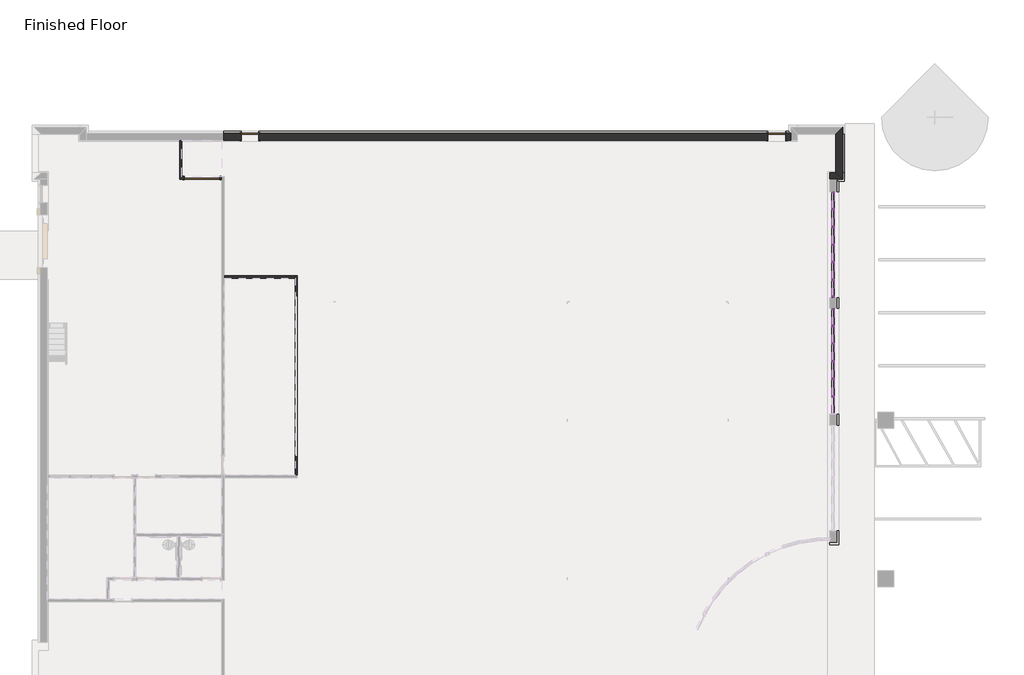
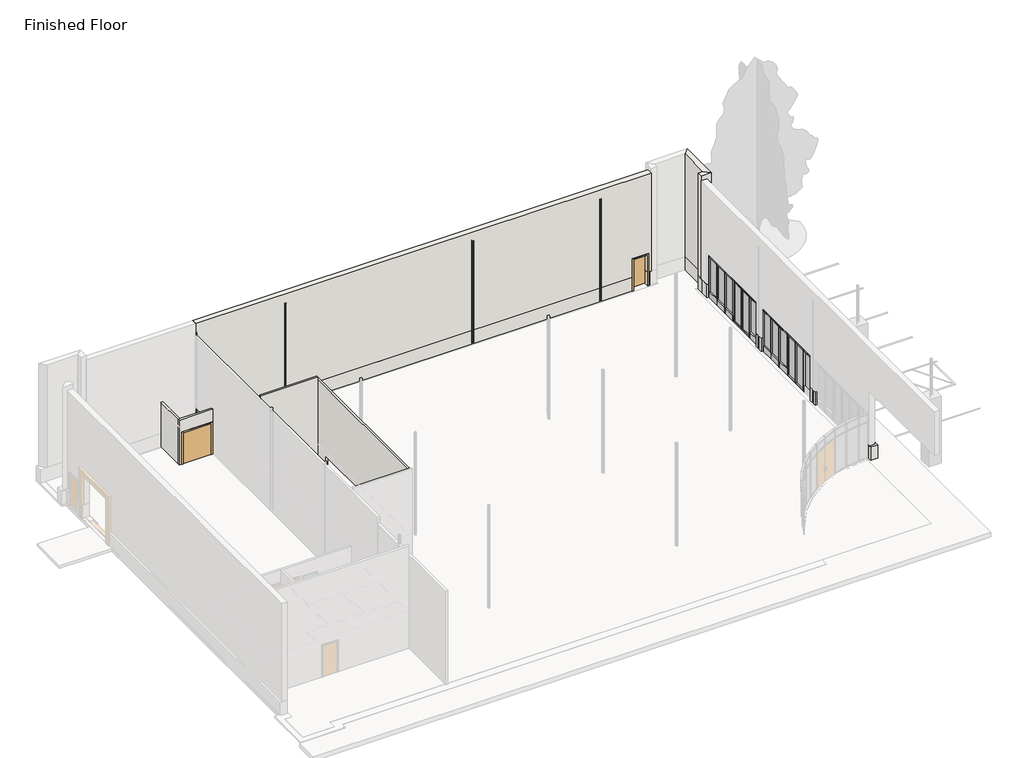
# One storey, part 5 of 6: 61 members, 24 plates, 11 walls, 3 doors.
"""IFC4 building model written with IfcOpenShell, lengths in millimetres."""

from ifc_helpers import new_model, si_unit, frame, origin, origin_with_axes, place, context, project, spatial, polyline, outline, extrude, faceted_brep, transform, mapped, element, save
from components import door_ca526e64, door_632be17d, door_cc5399a4, member_d2e7e466, member_7db1855a, member_069002c8, member_a75f139a, member_8a16213d, member_a608d019, member_c17f1be2, member_ad567e07, rectangular_mullion_tall_mullion_dc5872ae, rectangular_mullion_tall_mullion_643de06f, system_panel_glazed_a343adf7, system_panel_glazed_9a2244e3, system_panel_glazed_6d8c8de5, system_panel_glazed_f449fc8c, system_panel_glazed_de0f3d3d

model = new_model("IFC4")

# Units and contexts
model_context = context("Model", 3, world=origin())
ifc_project = project(units=[si_unit("LENGTHUNIT", "METRE", prefix="MILLI")], contexts=[model_context])

# Site, building, storey
site = spatial("IfcSite", under=ifc_project)
building = spatial("IfcBuilding", under=site)
storey = spatial("IfcBuildingStorey", under=building, Name="Finished Floor", Elevation=0.0)

# Doors
placement = place(None, origin())
door_shape = door_ca526e64(model_context)
element("IfcDoor", 1, ObjectType="Double-Flush-Dbl Acting : 72\" x 84\"", at=placement, inside=storey, context=model_context, shape_type="MappedRepresentation", body=[
    mapped(door_shape, transform((-14044.6165221, 12023.3561943, 0.0), x_axis=(-1.0, 0.0, 0.0), y_axis=(0.0, -1.0, 0.0), z_axis=(0.0, 0.0, 1.0))),
])
door_2_shape = door_632be17d(model_context)
element("IfcDoor", 2, ObjectType="Single-Flush : 36\" x 84\"", at=placement, inside=storey, context=model_context, shape_type="MappedRepresentation", body=[
    mapped(door_2_shape, transform((15731.3272279, 14169.6561943, 0.0), x_axis=(1.0, 0.0, 0.0), y_axis=(0.0, 1.0, 0.0), z_axis=(0.0, 0.0, 1.0))),
])
door_3_shape = door_cc5399a4(model_context)
element("IfcDoor", 3, ObjectType="Single-Flush : 36\" x 84\"", at=placement, inside=storey, context=model_context, shape_type="MappedRepresentation", body=[
    mapped(door_3_shape, transform((-11548.2727721, 14169.6561943, 0.0), x_axis=(-1.0, 0.0, 0.0), y_axis=(0.0, -1.0, 0.0), z_axis=(0.0, 0.0, 1.0))),
])

# Members
member_shape = member_d2e7e466(model_context)
element("IfcMember", 4, ObjectType="Rectangular Mullion : 2.5\" x 5\" rectangular", at=placement, inside=storey, context=model_context, shape_type="MappedRepresentation", body=[
    mapped(member_shape, transform((18653.9147279, 2501.5311943, 3048.0), x_axis=(0.0, 0.0, 1.0), y_axis=(1.0, 0.0, 0.0), z_axis=(0.0, 1.0, 0.0))),
])
element("IfcMember", 5, ObjectType="Rectangular Mullion : 2.5\" x 5\" rectangular", at=placement, inside=storey, context=model_context, shape_type="MappedRepresentation", body=[
    mapped(member_shape, transform((18653.9147279, 3415.9311943, 3048.0), x_axis=(0.0, 0.0, 1.0), y_axis=(1.0, 0.0, 0.0), z_axis=(0.0, 1.0, 0.0))),
])
element("IfcMember", 6, ObjectType="Rectangular Mullion : 2.5\" x 5\" rectangular", at=placement, inside=storey, context=model_context, shape_type="MappedRepresentation", body=[
    mapped(member_shape, transform((18653.9147279, 4330.3311943, 3048.0), x_axis=(0.0, 0.0, 1.0), y_axis=(1.0, 0.0, 0.0), z_axis=(0.0, 1.0, 0.0))),
])
element("IfcMember", 7, ObjectType="Rectangular Mullion : 2.5\" x 5\" rectangular", at=placement, inside=storey, context=model_context, shape_type="MappedRepresentation", body=[
    mapped(member_shape, transform((18653.9147279, 8546.7311943, 3048.0), x_axis=(0.0, 0.0, 1.0), y_axis=(1.0, 0.0, 0.0), z_axis=(0.0, 1.0, 0.0))),
])
element("IfcMember", 8, ObjectType="Rectangular Mullion : 2.5\" x 5\" rectangular", at=placement, inside=storey, context=model_context, shape_type="MappedRepresentation", body=[
    mapped(member_shape, transform((18653.9147279, 9461.1311943, 3048.0), x_axis=(0.0, 0.0, 1.0), y_axis=(1.0, 0.0, 0.0), z_axis=(0.0, 1.0, 0.0))),
])
element("IfcMember", 9, ObjectType="Rectangular Mullion : 2.5\" x 5\" rectangular", at=placement, inside=storey, context=model_context, shape_type="MappedRepresentation", body=[
    mapped(member_shape, transform((18653.9147279, 10375.5311943, 3048.0), x_axis=(0.0, 0.0, 1.0), y_axis=(1.0, 0.0, 0.0), z_axis=(0.0, 1.0, 0.0))),
])
member_2_shape = member_7db1855a(model_context)
element("IfcMember", 10, ObjectType="Rectangular Mullion : 2.5\" x 5\" rectangular", at=placement, inside=storey, context=model_context, shape_type="MappedRepresentation", body=[
    mapped(member_2_shape, transform((18653.9147279, 3415.9311943, 2813.05), x_axis=(0.0, 0.0, 1.0), y_axis=(1.0, 0.0, 0.0), z_axis=(0.0, 1.0, 0.0))),
])
element("IfcMember", 11, ObjectType="Rectangular Mullion : 2.5\" x 5\" rectangular", at=placement, inside=storey, context=model_context, shape_type="MappedRepresentation", body=[
    mapped(member_2_shape, transform((18653.9147279, 4330.3311943, 2813.05), x_axis=(0.0, 0.0, 1.0), y_axis=(1.0, 0.0, 0.0), z_axis=(0.0, 1.0, 0.0))),
])
element("IfcMember", 12, ObjectType="Rectangular Mullion : 2.5\" x 5\" rectangular", at=placement, inside=storey, context=model_context, shape_type="MappedRepresentation", body=[
    mapped(member_2_shape, transform((18653.9147279, 9461.1311943, 2813.05), x_axis=(0.0, 0.0, 1.0), y_axis=(1.0, 0.0, 0.0), z_axis=(0.0, 1.0, 0.0))),
])
element("IfcMember", 13, ObjectType="Rectangular Mullion : 2.5\" x 5\" rectangular", at=placement, inside=storey, context=model_context, shape_type="MappedRepresentation", body=[
    mapped(member_2_shape, transform((18653.9147279, 10375.5311943, 2813.05), x_axis=(0.0, 0.0, 1.0), y_axis=(1.0, 0.0, 0.0), z_axis=(0.0, 1.0, 0.0))),
])
element("IfcMember", 14, ObjectType="Rectangular Mullion : 2.5\" x 5\" rectangular", at=placement, inside=storey, context=model_context, shape_type="MappedRepresentation", body=[
    mapped(member_shape, transform((18653.9147279, 1587.1311943, 3048.0), x_axis=(0.0, 0.0, 1.0), y_axis=(1.0, 0.0, 0.0), z_axis=(0.0, 1.0, 0.0))),
])
element("IfcMember", 15, ObjectType="Rectangular Mullion : 2.5\" x 5\" rectangular", at=placement, inside=storey, context=model_context, shape_type="MappedRepresentation", body=[
    mapped(member_shape, transform((18653.9147279, 7632.3311943, 3048.0), x_axis=(0.0, 0.0, 1.0), y_axis=(1.0, 0.0, 0.0), z_axis=(0.0, 1.0, 0.0))),
])
element("IfcMember", 16, ObjectType="Rectangular Mullion : 2.5\" x 5\" rectangular", at=placement, inside=storey, context=model_context, shape_type="MappedRepresentation", body=[
    mapped(member_shape, transform((18653.9147279, 736.2311943, 0.0), x_axis=(0.0, 0.0, -1.0), y_axis=(1.0, 0.0, 0.0), z_axis=(0.0, -1.0, 0.0))),
])
element("IfcMember", 17, ObjectType="Rectangular Mullion : 2.5\" x 5\" rectangular", at=placement, inside=storey, context=model_context, shape_type="MappedRepresentation", body=[
    mapped(member_shape, transform((18653.9147279, 1650.6311943, 0.0), x_axis=(0.0, 0.0, -1.0), y_axis=(1.0, 0.0, 0.0), z_axis=(0.0, -1.0, 0.0))),
])
element("IfcMember", 18, ObjectType="Rectangular Mullion : 2.5\" x 5\" rectangular", at=placement, inside=storey, context=model_context, shape_type="MappedRepresentation", body=[
    mapped(member_shape, transform((18653.9147279, 6781.4311943, 0.0), x_axis=(0.0, 0.0, -1.0), y_axis=(1.0, 0.0, 0.0), z_axis=(0.0, -1.0, 0.0))),
])
element("IfcMember", 19, ObjectType="Rectangular Mullion : 2.5\" x 5\" rectangular", at=placement, inside=storey, context=model_context, shape_type="MappedRepresentation", body=[
    mapped(member_shape, transform((18653.9147279, 7695.8311943, 0.0), x_axis=(0.0, 0.0, -1.0), y_axis=(1.0, 0.0, 0.0), z_axis=(0.0, -1.0, 0.0))),
])
element("IfcMember", 20, ObjectType="Rectangular Mullion : 2.5\" x 5\" rectangular", at=placement, inside=storey, context=model_context, shape_type="MappedRepresentation", body=[
    mapped(member_2_shape, transform((18653.9147279, 1587.1311943, 2813.05), x_axis=(0.0, 0.0, 1.0), y_axis=(1.0, 0.0, 0.0), z_axis=(0.0, 1.0, 0.0))),
])
element("IfcMember", 21, ObjectType="Rectangular Mullion : 2.5\" x 5\" rectangular", at=placement, inside=storey, context=model_context, shape_type="MappedRepresentation", body=[
    mapped(member_2_shape, transform((18653.9147279, 2501.5311943, 2813.05), x_axis=(0.0, 0.0, 1.0), y_axis=(1.0, 0.0, 0.0), z_axis=(0.0, 1.0, 0.0))),
])
element("IfcMember", 22, ObjectType="Rectangular Mullion : 2.5\" x 5\" rectangular", at=placement, inside=storey, context=model_context, shape_type="MappedRepresentation", body=[
    mapped(member_2_shape, transform((18653.9147279, 7632.3311943, 2813.05), x_axis=(0.0, 0.0, 1.0), y_axis=(1.0, 0.0, 0.0), z_axis=(0.0, 1.0, 0.0))),
])
element("IfcMember", 23, ObjectType="Rectangular Mullion : 2.5\" x 5\" rectangular", at=placement, inside=storey, context=model_context, shape_type="MappedRepresentation", body=[
    mapped(member_2_shape, transform((18653.9147279, 8546.7311943, 2813.05), x_axis=(0.0, 0.0, 1.0), y_axis=(1.0, 0.0, 0.0), z_axis=(0.0, 1.0, 0.0))),
])
member_3_shape = member_069002c8(model_context)
element("IfcMember", 24, ObjectType="Rectangular Mullion : 2.5\" x 5\" rectangular", at=placement, inside=storey, context=model_context, shape_type="MappedRepresentation", body=[
    mapped(member_3_shape, transform((18653.9147279, 2533.2811943, 0.0), x_axis=(0.0, 1.0, 0.0), y_axis=(1.0, 0.0, 0.0), z_axis=(0.0, 0.0, -1.0))),
])
element("IfcMember", 25, ObjectType="Rectangular Mullion : 2.5\" x 5\" rectangular", at=placement, inside=storey, context=model_context, shape_type="MappedRepresentation", body=[
    mapped(member_3_shape, transform((18653.9147279, 3447.6811943, 0.0), x_axis=(0.0, 1.0, 0.0), y_axis=(1.0, 0.0, 0.0), z_axis=(0.0, 0.0, -1.0))),
])
element("IfcMember", 26, ObjectType="Rectangular Mullion : 2.5\" x 5\" rectangular", at=placement, inside=storey, context=model_context, shape_type="MappedRepresentation", body=[
    mapped(member_3_shape, transform((18653.9147279, 4362.0811943, 0.0), x_axis=(0.0, 1.0, 0.0), y_axis=(1.0, 0.0, 0.0), z_axis=(0.0, 0.0, -1.0))),
])
element("IfcMember", 27, ObjectType="Rectangular Mullion : 2.5\" x 5\" rectangular", at=placement, inside=storey, context=model_context, shape_type="MappedRepresentation", body=[
    mapped(member_3_shape, transform((18653.9147279, 8578.4811943, 0.0), x_axis=(0.0, 1.0, 0.0), y_axis=(1.0, 0.0, 0.0), z_axis=(0.0, 0.0, -1.0))),
])
element("IfcMember", 28, ObjectType="Rectangular Mullion : 2.5\" x 5\" rectangular", at=placement, inside=storey, context=model_context, shape_type="MappedRepresentation", body=[
    mapped(member_3_shape, transform((18653.9147279, 9492.8811943, 0.0), x_axis=(0.0, 1.0, 0.0), y_axis=(1.0, 0.0, 0.0), z_axis=(0.0, 0.0, -1.0))),
])
element("IfcMember", 29, ObjectType="Rectangular Mullion : 2.5\" x 5\" rectangular", at=placement, inside=storey, context=model_context, shape_type="MappedRepresentation", body=[
    mapped(member_3_shape, transform((18653.9147279, 10407.2811943, 0.0), x_axis=(0.0, 1.0, 0.0), y_axis=(1.0, 0.0, 0.0), z_axis=(0.0, 0.0, -1.0))),
])
member_4_shape = member_a75f139a(model_context)
element("IfcMember", 30, ObjectType="Rectangular Mullion : 2.5\" x 5\" rectangular", at=placement, inside=storey, context=model_context, shape_type="MappedRepresentation", body=[
    mapped(member_4_shape, transform((18653.9147279, 2533.2811943, 2813.05), x_axis=(0.0, 1.0, 0.0), y_axis=(1.0, 0.0, 0.0), z_axis=(0.0, 0.0, -1.0))),
])
element("IfcMember", 31, ObjectType="Rectangular Mullion : 2.5\" x 5\" rectangular", at=placement, inside=storey, context=model_context, shape_type="MappedRepresentation", body=[
    mapped(member_4_shape, transform((18653.9147279, 3447.6811943, 2813.05), x_axis=(0.0, 1.0, 0.0), y_axis=(1.0, 0.0, 0.0), z_axis=(0.0, 0.0, -1.0))),
])
element("IfcMember", 32, ObjectType="Rectangular Mullion : 2.5\" x 5\" rectangular", at=placement, inside=storey, context=model_context, shape_type="MappedRepresentation", body=[
    mapped(member_4_shape, transform((18653.9147279, 4362.0811943, 2813.05), x_axis=(0.0, 1.0, 0.0), y_axis=(1.0, 0.0, 0.0), z_axis=(0.0, 0.0, -1.0))),
])
element("IfcMember", 33, ObjectType="Rectangular Mullion : 2.5\" x 5\" rectangular", at=placement, inside=storey, context=model_context, shape_type="MappedRepresentation", body=[
    mapped(member_4_shape, transform((18653.9147279, 8578.4811943, 2813.05), x_axis=(0.0, 1.0, 0.0), y_axis=(1.0, 0.0, 0.0), z_axis=(0.0, 0.0, -1.0))),
])
element("IfcMember", 34, ObjectType="Rectangular Mullion : 2.5\" x 5\" rectangular", at=placement, inside=storey, context=model_context, shape_type="MappedRepresentation", body=[
    mapped(member_4_shape, transform((18653.9147279, 9492.8811943, 2813.05), x_axis=(0.0, 1.0, 0.0), y_axis=(1.0, 0.0, 0.0), z_axis=(0.0, 0.0, -1.0))),
])
element("IfcMember", 35, ObjectType="Rectangular Mullion : 2.5\" x 5\" rectangular", at=placement, inside=storey, context=model_context, shape_type="MappedRepresentation", body=[
    mapped(member_4_shape, transform((18653.9147279, 10407.2811943, 2813.05), x_axis=(0.0, 1.0, 0.0), y_axis=(1.0, 0.0, 0.0), z_axis=(0.0, 0.0, -1.0))),
])
element("IfcMember", 36, ObjectType="Rectangular Mullion : 2.5\" x 5\" rectangular", at=placement, inside=storey, context=model_context, shape_type="MappedRepresentation", body=[
    mapped(member_3_shape, transform((18653.9147279, 1618.8811943, 0.0), x_axis=(0.0, 1.0, 0.0), y_axis=(1.0, 0.0, 0.0), z_axis=(0.0, 0.0, -1.0))),
])
element("IfcMember", 37, ObjectType="Rectangular Mullion : 2.5\" x 5\" rectangular", at=placement, inside=storey, context=model_context, shape_type="MappedRepresentation", body=[
    mapped(member_3_shape, transform((18653.9147279, 704.4811943, 0.0), x_axis=(0.0, 1.0, 0.0), y_axis=(1.0, 0.0, 0.0), z_axis=(0.0, 0.0, -1.0))),
])
element("IfcMember", 38, ObjectType="Rectangular Mullion : 2.5\" x 5\" rectangular", at=placement, inside=storey, context=model_context, shape_type="MappedRepresentation", body=[
    mapped(member_3_shape, transform((18653.9147279, 7664.0811943, 0.0), x_axis=(0.0, 1.0, 0.0), y_axis=(1.0, 0.0, 0.0), z_axis=(0.0, 0.0, -1.0))),
])
element("IfcMember", 39, ObjectType="Rectangular Mullion : 2.5\" x 5\" rectangular", at=placement, inside=storey, context=model_context, shape_type="MappedRepresentation", body=[
    mapped(member_3_shape, transform((18653.9147279, 6749.6811943, 0.0), x_axis=(0.0, 1.0, 0.0), y_axis=(1.0, 0.0, 0.0), z_axis=(0.0, 0.0, -1.0))),
])
element("IfcMember", 40, ObjectType="Rectangular Mullion : 2.5\" x 5\" rectangular", at=placement, inside=storey, context=model_context, shape_type="MappedRepresentation", body=[
    mapped(member_4_shape, transform((18653.9147279, 1618.8811943, 2813.05), x_axis=(0.0, 1.0, 0.0), y_axis=(1.0, 0.0, 0.0), z_axis=(0.0, 0.0, -1.0))),
])
element("IfcMember", 41, ObjectType="Rectangular Mullion : 2.5\" x 5\" rectangular", at=placement, inside=storey, context=model_context, shape_type="MappedRepresentation", body=[
    mapped(member_4_shape, transform((18653.9147279, 704.4811943, 2813.05), x_axis=(0.0, 1.0, 0.0), y_axis=(1.0, 0.0, 0.0), z_axis=(0.0, 0.0, -1.0))),
])
element("IfcMember", 42, ObjectType="Rectangular Mullion : 2.5\" x 5\" rectangular", at=placement, inside=storey, context=model_context, shape_type="MappedRepresentation", body=[
    mapped(member_4_shape, transform((18653.9147279, 7664.0811943, 2813.05), x_axis=(0.0, 1.0, 0.0), y_axis=(1.0, 0.0, 0.0), z_axis=(0.0, 0.0, -1.0))),
])
element("IfcMember", 43, ObjectType="Rectangular Mullion : 2.5\" x 5\" rectangular", at=placement, inside=storey, context=model_context, shape_type="MappedRepresentation", body=[
    mapped(member_4_shape, transform((18653.9147279, 6749.6811943, 2813.05), x_axis=(0.0, 1.0, 0.0), y_axis=(1.0, 0.0, 0.0), z_axis=(0.0, 0.0, -1.0))),
])
member_5_shape = member_8a16213d(model_context)
element("IfcMember", 44, ObjectType="Rectangular Mullion : 2.5\" x 5\" rectangular", at=placement, inside=storey, context=model_context, shape_type="MappedRepresentation", body=[
    mapped(member_5_shape, transform((18653.9147279, 5276.4811943, 0.0), x_axis=(0.0, 1.0, 0.0), y_axis=(1.0, 0.0, 0.0), z_axis=(0.0, 0.0, -1.0))),
])
element("IfcMember", 45, ObjectType="Rectangular Mullion : 2.5\" x 5\" rectangular", at=placement, inside=storey, context=model_context, shape_type="MappedRepresentation", body=[
    mapped(member_5_shape, transform((18653.9147279, 11321.6811943, 0.0), x_axis=(0.0, 1.0, 0.0), y_axis=(1.0, 0.0, 0.0), z_axis=(0.0, 0.0, -1.0))),
])
member_6_shape = member_a608d019(model_context)
element("IfcMember", 46, ObjectType="Rectangular Mullion : 2.5\" x 5\" rectangular", at=placement, inside=storey, context=model_context, shape_type="MappedRepresentation", body=[
    mapped(member_6_shape, transform((18653.9147279, 5276.4811943, 2813.05), x_axis=(0.0, 1.0, 0.0), y_axis=(1.0, 0.0, 0.0), z_axis=(0.0, 0.0, -1.0))),
])
element("IfcMember", 47, ObjectType="Rectangular Mullion : 2.5\" x 5\" rectangular", at=placement, inside=storey, context=model_context, shape_type="MappedRepresentation", body=[
    mapped(member_6_shape, transform((18653.9147279, 11321.6811943, 2813.05), x_axis=(0.0, 1.0, 0.0), y_axis=(1.0, 0.0, 0.0), z_axis=(0.0, 0.0, -1.0))),
])
element("IfcMember", 48, ObjectType="Rectangular Mullion : 2.5\" x 5\" rectangular", at=placement, inside=storey, context=model_context, shape_type="MappedRepresentation", body=[
    mapped(member_6_shape, transform((18653.9147279, 5835.2811943, 3048.0), x_axis=(0.0, -1.0, 0.0), y_axis=(1.0, 0.0, 0.0), z_axis=(0.0, 0.0, 1.0))),
])
element("IfcMember", 49, ObjectType="Rectangular Mullion : 2.5\" x 5\" rectangular", at=placement, inside=storey, context=model_context, shape_type="MappedRepresentation", body=[
    mapped(member_5_shape, transform((18653.9147279, 5835.2811943, 2813.05), x_axis=(0.0, -1.0, 0.0), y_axis=(1.0, 0.0, 0.0), z_axis=(0.0, 0.0, 1.0))),
])
member_7_shape = member_c17f1be2(model_context)
element("IfcMember", 50, ObjectType="Rectangular Mullion : 2.5\" x 5\" rectangular", at=placement, inside=storey, context=model_context, shape_type="MappedRepresentation", body=[
    mapped(member_7_shape, transform((18653.9147279, 5212.9811943, 3048.0), x_axis=(0.0, 0.0, 1.0), y_axis=(1.0, 0.0, 0.0), z_axis=(0.0, 1.0, 0.0))),
])
element("IfcMember", 51, ObjectType="Rectangular Mullion : 2.5\" x 5\" rectangular", at=placement, inside=storey, context=model_context, shape_type="MappedRepresentation", body=[
    mapped(member_7_shape, transform((18653.9147279, 11258.1811943, 3048.0), x_axis=(0.0, 0.0, 1.0), y_axis=(1.0, 0.0, 0.0), z_axis=(0.0, 1.0, 0.0))),
])
member_8_shape = member_ad567e07(model_context)
element("IfcMember", 52, ObjectType="Rectangular Mullion : 2.5\" x 5\" rectangular", at=placement, inside=storey, context=model_context, shape_type="MappedRepresentation", body=[
    mapped(member_8_shape, transform((18653.9147279, 672.7311943, 2813.05), x_axis=(0.0, 0.0, 1.0), y_axis=(1.0, 0.0, 0.0), z_axis=(0.0, 1.0, 0.0))),
])
element("IfcMember", 53, ObjectType="Rectangular Mullion : 2.5\" x 5\" rectangular", at=placement, inside=storey, context=model_context, shape_type="MappedRepresentation", body=[
    mapped(member_8_shape, transform((18653.9147279, 5212.9811943, 2813.05), x_axis=(0.0, 0.0, 1.0), y_axis=(1.0, 0.0, 0.0), z_axis=(0.0, 1.0, 0.0))),
])
element("IfcMember", 54, ObjectType="Rectangular Mullion : 2.5\" x 5\" rectangular", at=placement, inside=storey, context=model_context, shape_type="MappedRepresentation", body=[
    mapped(member_8_shape, transform((18653.9147279, 6717.9311943, 2813.05), x_axis=(0.0, 0.0, 1.0), y_axis=(1.0, 0.0, 0.0), z_axis=(0.0, 1.0, 0.0))),
])
element("IfcMember", 55, ObjectType="Rectangular Mullion : 2.5\" x 5\" rectangular", at=placement, inside=storey, context=model_context, shape_type="MappedRepresentation", body=[
    mapped(member_8_shape, transform((18653.9147279, 11258.1811943, 2813.05), x_axis=(0.0, 0.0, 1.0), y_axis=(1.0, 0.0, 0.0), z_axis=(0.0, 1.0, 0.0))),
])
element("IfcMember", 56, ObjectType="Rectangular Mullion : 2.5\" x 5\" rectangular", at=placement, inside=storey, context=model_context, shape_type="MappedRepresentation", body=[
    mapped(member_7_shape, transform((18653.9147279, 672.7311943, 3048.0), x_axis=(0.0, 0.0, 1.0), y_axis=(1.0, 0.0, 0.0), z_axis=(0.0, 1.0, 0.0))),
])
element("IfcMember", 57, ObjectType="Rectangular Mullion : 2.5\" x 5\" rectangular", at=placement, inside=storey, context=model_context, shape_type="MappedRepresentation", body=[
    mapped(member_7_shape, transform((18653.9147279, 6717.9311943, 3048.0), x_axis=(0.0, 0.0, 1.0), y_axis=(1.0, 0.0, 0.0), z_axis=(0.0, 1.0, 0.0))),
])
rectangular_mullion_tall_mullion_shape = rectangular_mullion_tall_mullion_dc5872ae(model_context)
element("IfcMember", 58, ObjectType="Rectangular Mullion : Tall Mullion", at=placement, inside=storey, context=model_context, shape_type="MappedRepresentation", body=[
    mapped(rectangular_mullion_tall_mullion_shape, transform((18653.9147279, 2565.0311943, 0.0), x_axis=(0.0, 0.0, -1.0), y_axis=(1.0, 0.0, 0.0), z_axis=(0.0, -1.0, 0.0))),
])
element("IfcMember", 59, ObjectType="Rectangular Mullion : Tall Mullion", at=placement, inside=storey, context=model_context, shape_type="MappedRepresentation", body=[
    mapped(rectangular_mullion_tall_mullion_shape, transform((18653.9147279, 3479.4311943, 0.0), x_axis=(0.0, 0.0, -1.0), y_axis=(1.0, 0.0, 0.0), z_axis=(0.0, -1.0, 0.0))),
])
element("IfcMember", 60, ObjectType="Rectangular Mullion : Tall Mullion", at=placement, inside=storey, context=model_context, shape_type="MappedRepresentation", body=[
    mapped(rectangular_mullion_tall_mullion_shape, transform((18653.9147279, 8610.2311943, 0.0), x_axis=(0.0, 0.0, -1.0), y_axis=(1.0, 0.0, 0.0), z_axis=(0.0, -1.0, 0.0))),
])
element("IfcMember", 61, ObjectType="Rectangular Mullion : Tall Mullion", at=placement, inside=storey, context=model_context, shape_type="MappedRepresentation", body=[
    mapped(rectangular_mullion_tall_mullion_shape, transform((18653.9147279, 9524.6311943, 0.0), x_axis=(0.0, 0.0, -1.0), y_axis=(1.0, 0.0, 0.0), z_axis=(0.0, -1.0, 0.0))),
])
rectangular_mullion_tall_mullion_2_shape = rectangular_mullion_tall_mullion_643de06f(model_context)
element("IfcMember", 62, ObjectType="Rectangular Mullion : Tall Mullion", at=placement, inside=storey, context=model_context, shape_type="MappedRepresentation", body=[
    mapped(rectangular_mullion_tall_mullion_2_shape, transform((18653.9147279, 4393.8311943, 0.0), x_axis=(0.0, 0.0, -1.0), y_axis=(1.0, 0.0, 0.0), z_axis=(0.0, -1.0, 0.0))),
])
element("IfcMember", 63, ObjectType="Rectangular Mullion : Tall Mullion", at=placement, inside=storey, context=model_context, shape_type="MappedRepresentation", body=[
    mapped(rectangular_mullion_tall_mullion_2_shape, transform((18653.9147279, 5898.7811943, 0.0), x_axis=(0.0, 0.0, -1.0), y_axis=(1.0, 0.0, 0.0), z_axis=(0.0, -1.0, 0.0))),
])
element("IfcMember", 64, ObjectType="Rectangular Mullion : Tall Mullion", at=placement, inside=storey, context=model_context, shape_type="MappedRepresentation", body=[
    mapped(rectangular_mullion_tall_mullion_2_shape, transform((18653.9147279, 10439.0311943, 0.0), x_axis=(0.0, 0.0, -1.0), y_axis=(1.0, 0.0, 0.0), z_axis=(0.0, -1.0, 0.0))),
])

# Plates
system_panel_glazed_shape = system_panel_glazed_a343adf7(model_context)
element("IfcPlate", 65, ObjectType="System Panel : Glazed", at=placement, inside=storey, context=model_context, shape_type="MappedRepresentation", body=[
    mapped(system_panel_glazed_shape, transform((18653.9147279, 2990.4811943, 406.4), x_axis=(0.0, 1.0, 0.0), y_axis=(-1.0, 0.0, 0.0), z_axis=(0.0, 0.0, 1.0))),
])
element("IfcPlate", 66, ObjectType="System Panel : Glazed", at=placement, inside=storey, context=model_context, shape_type="MappedRepresentation", body=[
    mapped(system_panel_glazed_shape, transform((18653.9147279, 3904.8811943, 406.4), x_axis=(0.0, 1.0, 0.0), y_axis=(-1.0, 0.0, 0.0), z_axis=(0.0, 0.0, 1.0))),
])
element("IfcPlate", 67, ObjectType="System Panel : Glazed", at=placement, inside=storey, context=model_context, shape_type="MappedRepresentation", body=[
    mapped(system_panel_glazed_shape, transform((18653.9147279, 9035.6811943, 406.4), x_axis=(0.0, 1.0, 0.0), y_axis=(-1.0, 0.0, 0.0), z_axis=(0.0, 0.0, 1.0))),
])
element("IfcPlate", 68, ObjectType="System Panel : Glazed", at=placement, inside=storey, context=model_context, shape_type="MappedRepresentation", body=[
    mapped(system_panel_glazed_shape, transform((18653.9147279, 9950.0811943, 406.4), x_axis=(0.0, 1.0, 0.0), y_axis=(-1.0, 0.0, 0.0), z_axis=(0.0, 0.0, 1.0))),
])
system_panel_glazed_2_shape = system_panel_glazed_9a2244e3(model_context)
element("IfcPlate", 69, ObjectType="System Panel : Glazed", at=placement, inside=storey, context=model_context, shape_type="MappedRepresentation", body=[
    mapped(system_panel_glazed_2_shape, transform((18653.9147279, 2990.4811943, 2844.8), x_axis=(0.0, 1.0, 0.0), y_axis=(-1.0, 0.0, 0.0), z_axis=(0.0, 0.0, 1.0))),
])
element("IfcPlate", 70, ObjectType="System Panel : Glazed", at=placement, inside=storey, context=model_context, shape_type="MappedRepresentation", body=[
    mapped(system_panel_glazed_2_shape, transform((18653.9147279, 3904.8811943, 2844.8), x_axis=(0.0, 1.0, 0.0), y_axis=(-1.0, 0.0, 0.0), z_axis=(0.0, 0.0, 1.0))),
])
element("IfcPlate", 71, ObjectType="System Panel : Glazed", at=placement, inside=storey, context=model_context, shape_type="MappedRepresentation", body=[
    mapped(system_panel_glazed_2_shape, transform((18653.9147279, 9035.6811943, 2844.8), x_axis=(0.0, 1.0, 0.0), y_axis=(-1.0, 0.0, 0.0), z_axis=(0.0, 0.0, 1.0))),
])
element("IfcPlate", 72, ObjectType="System Panel : Glazed", at=placement, inside=storey, context=model_context, shape_type="MappedRepresentation", body=[
    mapped(system_panel_glazed_2_shape, transform((18653.9147279, 9950.0811943, 2844.8), x_axis=(0.0, 1.0, 0.0), y_axis=(-1.0, 0.0, 0.0), z_axis=(0.0, 0.0, 1.0))),
])
element("IfcPlate", 73, ObjectType="System Panel : Glazed", at=placement, inside=storey, context=model_context, shape_type="MappedRepresentation", body=[
    mapped(system_panel_glazed_2_shape, transform((18653.9147279, 2076.0811943, 2844.8), x_axis=(0.0, 1.0, 0.0), y_axis=(-1.0, 0.0, 0.0), z_axis=(0.0, 0.0, 1.0))),
])
element("IfcPlate", 74, ObjectType="System Panel : Glazed", at=placement, inside=storey, context=model_context, shape_type="MappedRepresentation", body=[
    mapped(system_panel_glazed_2_shape, transform((18653.9147279, 1161.6811943, 2844.8), x_axis=(0.0, 1.0, 0.0), y_axis=(-1.0, 0.0, 0.0), z_axis=(0.0, 0.0, 1.0))),
])
element("IfcPlate", 75, ObjectType="System Panel : Glazed", at=placement, inside=storey, context=model_context, shape_type="MappedRepresentation", body=[
    mapped(system_panel_glazed_2_shape, transform((18653.9147279, 8121.2811943, 2844.8), x_axis=(0.0, 1.0, 0.0), y_axis=(-1.0, 0.0, 0.0), z_axis=(0.0, 0.0, 1.0))),
])
element("IfcPlate", 76, ObjectType="System Panel : Glazed", at=placement, inside=storey, context=model_context, shape_type="MappedRepresentation", body=[
    mapped(system_panel_glazed_2_shape, transform((18653.9147279, 7206.8811943, 2844.8), x_axis=(0.0, 1.0, 0.0), y_axis=(-1.0, 0.0, 0.0), z_axis=(0.0, 0.0, 1.0))),
])
system_panel_glazed_3_shape = system_panel_glazed_6d8c8de5(model_context)
element("IfcPlate", 77, ObjectType="System Panel : Glazed", at=placement, inside=storey, context=model_context, shape_type="MappedRepresentation", body=[
    mapped(system_panel_glazed_3_shape, transform((18653.9147279, 2076.0811943, 63.5), x_axis=(0.0, 1.0, 0.0), y_axis=(-1.0, 0.0, 0.0), z_axis=(0.0, 0.0, 1.0))),
])
element("IfcPlate", 78, ObjectType="System Panel : Glazed", at=placement, inside=storey, context=model_context, shape_type="MappedRepresentation", body=[
    mapped(system_panel_glazed_3_shape, transform((18653.9147279, 1161.6811943, 63.5), x_axis=(0.0, 1.0, 0.0), y_axis=(-1.0, 0.0, 0.0), z_axis=(0.0, 0.0, 1.0))),
])
element("IfcPlate", 79, ObjectType="System Panel : Glazed", at=placement, inside=storey, context=model_context, shape_type="MappedRepresentation", body=[
    mapped(system_panel_glazed_3_shape, transform((18653.9147279, 8121.2811943, 63.5), x_axis=(0.0, 1.0, 0.0), y_axis=(-1.0, 0.0, 0.0), z_axis=(0.0, 0.0, 1.0))),
])
element("IfcPlate", 80, ObjectType="System Panel : Glazed", at=placement, inside=storey, context=model_context, shape_type="MappedRepresentation", body=[
    mapped(system_panel_glazed_3_shape, transform((18653.9147279, 7206.8811943, 63.5), x_axis=(0.0, 1.0, 0.0), y_axis=(-1.0, 0.0, 0.0), z_axis=(0.0, 0.0, 1.0))),
])
system_panel_glazed_4_shape = system_panel_glazed_f449fc8c(model_context)
element("IfcPlate", 81, ObjectType="System Panel : Glazed", at=placement, inside=storey, context=model_context, shape_type="MappedRepresentation", body=[
    mapped(system_panel_glazed_4_shape, transform((18653.9147279, 263.1561943, 406.4), x_axis=(0.0, 1.0, 0.0), y_axis=(-1.0, 0.0, 0.0), z_axis=(0.0, 0.0, 1.0))),
])
element("IfcPlate", 82, ObjectType="System Panel : Glazed", at=placement, inside=storey, context=model_context, shape_type="MappedRepresentation", body=[
    mapped(system_panel_glazed_4_shape, transform((18653.9147279, 4803.4061943, 406.4), x_axis=(0.0, 1.0, 0.0), y_axis=(-1.0, 0.0, 0.0), z_axis=(0.0, 0.0, 1.0))),
])
element("IfcPlate", 83, ObjectType="System Panel : Glazed", at=placement, inside=storey, context=model_context, shape_type="MappedRepresentation", body=[
    mapped(system_panel_glazed_4_shape, transform((18653.9147279, 6308.3561943, 406.4), x_axis=(0.0, 1.0, 0.0), y_axis=(-1.0, 0.0, 0.0), z_axis=(0.0, 0.0, 1.0))),
])
element("IfcPlate", 84, ObjectType="System Panel : Glazed", at=placement, inside=storey, context=model_context, shape_type="MappedRepresentation", body=[
    mapped(system_panel_glazed_4_shape, transform((18653.9147279, 10848.6061943, 406.4), x_axis=(0.0, 1.0, 0.0), y_axis=(-1.0, 0.0, 0.0), z_axis=(0.0, 0.0, 1.0))),
])
system_panel_glazed_5_shape = system_panel_glazed_de0f3d3d(model_context)
element("IfcPlate", 85, ObjectType="System Panel : Glazed", at=placement, inside=storey, context=model_context, shape_type="MappedRepresentation", body=[
    mapped(system_panel_glazed_5_shape, transform((18653.9147279, 263.1561943, 2844.8), x_axis=(0.0, 1.0, 0.0), y_axis=(-1.0, 0.0, 0.0), z_axis=(0.0, 0.0, 1.0))),
])
element("IfcPlate", 86, ObjectType="System Panel : Glazed", at=placement, inside=storey, context=model_context, shape_type="MappedRepresentation", body=[
    mapped(system_panel_glazed_5_shape, transform((18653.9147279, 4803.4061943, 2844.8), x_axis=(0.0, 1.0, 0.0), y_axis=(-1.0, 0.0, 0.0), z_axis=(0.0, 0.0, 1.0))),
])
element("IfcPlate", 87, ObjectType="System Panel : Glazed", at=placement, inside=storey, context=model_context, shape_type="MappedRepresentation", body=[
    mapped(system_panel_glazed_5_shape, transform((18653.9147279, 6308.3561943, 2844.8), x_axis=(0.0, 1.0, 0.0), y_axis=(-1.0, 0.0, 0.0), z_axis=(0.0, 0.0, 1.0))),
])
element("IfcPlate", 88, ObjectType="System Panel : Glazed", at=placement, inside=storey, context=model_context, shape_type="MappedRepresentation", body=[
    mapped(system_panel_glazed_5_shape, transform((18653.9147279, 10848.6061943, 2844.8), x_axis=(0.0, 1.0, 0.0), y_axis=(-1.0, 0.0, 0.0), z_axis=(0.0, 0.0, 1.0))),
])

# Walls
element("IfcWall", 89, ObjectType="Exterior - Brick on Mtl. Stud", at=placement, inside=storey, context=model_context, shape_type="Brep", body=[
    faceted_brep([(16442.5272279, 13993.4436943, 7620.0), (-12953.2102721, 13993.4436943, 7620.0), (-12953.2102721, 13993.4436943, 914.4), (-12005.4727721, 13993.4436943, 914.4), (-12005.4727721, 13993.4436943, 2133.6), (-11091.0727721, 13993.4436943, 2133.6), (-11091.0727721, 13993.4436943, 914.4), (15274.1272279, 13993.4436943, 914.4), (15274.1272279, 13993.4436943, 2133.6), (16188.5272279, 13993.4436943, 2133.6), (16188.5272279, 13993.4436943, 914.4), (16340.9272279, 13993.4436943, 914.4), (16442.5272279, 13993.4436943, 914.4), (-12953.2102721, 14345.8686943, 7620.0), (16442.5272279, 14345.8686943, 7620.0), (16442.5272279, 14345.8686943, 914.4), (16188.5272279, 14345.8686943, 914.4), (16188.5272279, 14345.8686943, 2133.6), (15274.1272279, 14345.8686943, 2133.6), (15274.1272279, 14345.8686943, 914.4), (-11091.0727721, 14345.8686943, 914.4), (-11091.0727721, 14345.8686943, 2133.6), (-12005.4727721, 14345.8686943, 2133.6), (-12005.4727721, 14345.8686943, 914.4), (-12953.2102721, 14345.8686943, 914.4), (-12953.2102721, 14336.3436943, 914.4)], [[[0, 1, 2, 3, 4, 5, 6, 7, 8, 9, 10, 11, 12]], [[13, 14, 15, 16, 17, 18, 19, 20, 21, 22, 23, 24]], [[15, 12, 11, 10, 16]], [[6, 20, 19, 7]], [[2, 25, 24, 23, 3]], [[1, 0, 14, 13]], [[0, 12, 15, 14]], [[22, 4, 3, 23]], [[4, 22, 21, 5]], [[5, 21, 20, 6]], [[1, 13, 24, 25, 2]], [[9, 17, 16, 10]], [[17, 9, 8, 18]], [[18, 8, 7, 19]]]),
])
element("IfcWall", 90, ObjectType="Exterior - Brick on Mtl. Stud", at=placement, inside=storey, context=model_context, shape_type="SweptSolid", body=[
    extrude(outline(polyline([(18782.5022279, 12310.6936943), (18782.5022279, 14298.2436943), (19134.9272279, 14650.6686943), (19134.9272279, 11958.2686943), (18782.5022279, 12310.6936943)])), frame((0.0, 0.0, 914.4), z_axis=(0.0, 0.0, 1.0), x_axis=(1.0, 0.0, 0.0)), (0.0, 0.0, 1.0), 7010.4),
])
element("IfcWall", 91, ObjectType="Exterior - Brick on Mtl. Stud", at=placement, inside=storey, context=model_context, shape_type="Brep", body=[
    faceted_brep([(18782.5022279, 12310.6936943, 914.4), (18477.7022279, 12310.6936943, 914.4), (18477.7022279, 12310.6936943, 7924.8), (18782.5022279, 12310.6936943, 7924.8), (19134.9272279, 11958.2686943, 914.4), (19134.9272279, 11958.2686943, 7924.8), (18477.7022279, 11958.2686943, 7924.8), (18477.7022279, 11958.2686943, 7620.0), (18477.7022279, 11958.2686943, 914.4), (18830.1272279, 11958.2686943, 914.4)], [[[0, 1, 2, 3]], [[4, 5, 6, 7, 8, 9]], [[1, 0, 4, 9, 8]], [[3, 2, 6, 5]], [[0, 3, 5, 4]], [[2, 1, 8, 7, 6]]]),
])
element("IfcWall", 92, ObjectType="Exterior - CMU on Mtl. Stud", at=placement, inside=storey, context=model_context, shape_type="Brep", body=[
    faceted_brep([(18477.7022279, 5835.2811943, 914.4), (18477.7022279, 5835.2811943, 0.0), (18477.7022279, 5276.4811943, 0.0), (18477.7022279, 5276.4811943, 914.4), (18931.7272279, 5835.2811943, 0.0), (18931.7272279, 5835.2811943, 914.4), (18931.7272279, 5276.4811943, 914.4), (18931.7272279, 5276.4811943, 0.0), (18820.6022279, 5835.2811943, 914.4), (18830.1272279, 5835.2811943, 914.4), (18738.0522279, 5835.2811943, 0.0), (18738.0522279, 5276.4811943, 0.0), (18830.1272279, 5276.4811943, 914.4), (18820.6022279, 5276.4811943, 914.4)], [[[0, 1, 2, 3]], [[4, 5, 6, 7]], [[1, 0, 8, 9, 5, 4, 10]], [[3, 2, 11, 7, 6, 12, 13]], [[5, 9, 8, 0, 3, 13, 12, 6]], [[2, 1, 10, 11]], [[10, 4, 7, 11]]]),
    faceted_brep([(18477.7022279, 11321.6811943, 0.0), (18477.7022279, 11321.6811943, 914.4), (18477.7022279, 11856.6686943, 914.4), (18477.7022279, 11856.6686943, 0.0), (18931.7272279, 11321.6811943, 914.4), (18931.7272279, 11321.6811943, 0.0), (18931.7272279, 11856.6686943, 0.0), (18931.7272279, 11856.6686943, 914.4), (18738.0522279, 11321.6811943, 0.0), (18830.1272279, 11321.6811943, 914.4), (18820.6022279, 11321.6811943, 914.4), (18738.0522279, 11856.6686943, 0.0)], [[[0, 1, 2, 3]], [[4, 5, 6, 7]], [[1, 0, 8, 5, 4, 9, 10]], [[2, 1, 10, 9, 4, 7]], [[3, 2, 7, 6, 11]], [[0, 3, 11, 8]], [[11, 6, 5, 8]]]),
    faceted_brep([(18477.7022279, -209.9188057, 914.4), (18477.7022279, -209.9188057, 0.0), (18477.7022279, -768.7188057, 0.0), (18477.7022279, -768.7188057, 914.4), (18931.7272279, -209.9188057, 0.0), (18931.7272279, -209.9188057, 914.4), (18931.7272279, -768.7188057, 914.4), (18931.7272279, -768.7188057, 0.0), (18820.6022279, -209.9188057, 914.4), (18830.1272279, -209.9188057, 914.4), (18738.0522279, -209.9188057, 0.0), (18738.0522279, -768.7188057, 0.0), (18830.1272279, -768.7188057, 914.4), (18820.6022279, -768.7188057, 914.4)], [[[0, 1, 2, 3]], [[4, 5, 6, 7]], [[1, 0, 8, 9, 5, 4, 10]], [[3, 2, 11, 7, 6, 12, 13]], [[5, 9, 8, 0, 3, 13, 12, 6]], [[1, 10, 11, 2]], [[10, 4, 7, 11]]]),
    faceted_brep([(18477.7022279, -6969.1417889, 0.0), (18477.7022279, -6969.1417889, 914.4), (18477.7022279, -6837.7313057, 914.4), (18477.7022279, -6255.1188057, 914.4), (18477.7022279, -6255.1188057, 0.0), (18931.7272279, -6969.1417889, 914.4), (18931.7272279, -6969.1417889, 0.0), (18931.7272279, -6255.1188057, 0.0), (18931.7272279, -6255.1188057, 914.4), (18820.6022279, -6255.1188057, 914.4), (18830.1272279, -6255.1188057, 914.4), (18738.0522279, -6255.1188057, 0.0), (18820.6022279, -6969.1417889, 914.4), (18738.0522279, -6969.1417889, 0.0)], [[[0, 1, 2, 3, 4]], [[5, 6, 7, 8]], [[4, 3, 9, 10, 8, 7, 11]], [[1, 12, 5, 8, 10, 9, 3, 2]], [[1, 0, 13, 6, 5, 12]], [[13, 0, 4, 11]], [[6, 13, 11, 7]]]),
])
element("IfcWall", 93, ObjectType="Exterior - CMU on Mtl. Stud", at=placement, inside=storey, context=model_context, shape_type="Brep", body=[
    faceted_brep([(-12953.2102721, 13993.4436943, 914.4), (-12953.2102721, 13993.4436943, 0.0), (-12005.4727721, 13993.4436943, 0.0), (-12005.4727721, 13993.4436943, 914.4), (-12953.2102721, 14447.4686943, 0.0), (-12953.2102721, 14447.4686943, 914.4), (-12005.4727721, 14447.4686943, 914.4), (-12005.4727721, 14447.4686943, 0.0), (-12953.2102721, 14345.8686943, 914.4), (-12953.2102721, 14336.3436943, 914.4), (-12005.4727721, 14336.3436943, 914.4), (-12005.4727721, 14345.8686943, 914.4), (-12953.2102721, 14253.7936943, 0.0), (-12005.4727721, 14253.7936943, 0.0)], [[[0, 1, 2, 3]], [[4, 5, 6, 7]], [[5, 8, 9, 0, 3, 10, 11, 6]], [[1, 0, 9, 8, 5, 4, 12]], [[3, 2, 13, 7, 6, 11, 10]], [[2, 1, 12, 13]], [[12, 4, 7, 13]]]),
    faceted_brep([(16340.9272279, 13993.4436943, 0.0), (16340.9272279, 13993.4436943, 914.4), (16188.5272279, 13993.4436943, 914.4), (16188.5272279, 13993.4436943, 0.0), (16340.9272279, 14447.4686943, 914.4), (16340.9272279, 14447.4686943, 0.0), (16188.5272279, 14447.4686943, 0.0), (16188.5272279, 14447.4686943, 914.4), (16188.5272279, 14345.8686943, 914.4), (16188.5272279, 14336.3436943, 914.4), (16340.9272279, 14253.7936943, 0.0), (16188.5272279, 14253.7936943, 0.0)], [[[0, 1, 2, 3]], [[4, 5, 6, 7]], [[1, 4, 7, 8, 9, 2]], [[1, 0, 10, 5, 4]], [[3, 2, 9, 8, 7, 6, 11]], [[10, 0, 3, 11]], [[5, 10, 11, 6]]]),
    faceted_brep([(-11091.0727721, 13993.4436943, 914.4), (-11091.0727721, 13993.4436943, 0.0), (15274.1272279, 13993.4436943, 0.0), (15274.1272279, 13993.4436943, 914.4), (-11091.0727721, 14447.4686943, 0.0), (-11091.0727721, 14447.4686943, 914.4), (15274.1272279, 14447.4686943, 914.4), (15274.1272279, 14447.4686943, 0.0), (-11091.0727721, 14345.8686943, 914.4), (-11091.0727721, 14336.3436943, 914.4), (15274.1272279, 14336.3436943, 914.4), (15274.1272279, 14345.8686943, 914.4), (-11091.0727721, 14253.7936943, 0.0), (15274.1272279, 14253.7936943, 0.0)], [[[0, 1, 2, 3]], [[4, 5, 6, 7]], [[5, 8, 9, 0, 3, 10, 11, 6]], [[1, 0, 9, 8, 5, 4, 12]], [[3, 2, 13, 7, 6, 11, 10]], [[1, 12, 13, 2]], [[12, 4, 7, 13]]]),
])
element("IfcWall", 94, ObjectType="Exterior - CMU on Mtl. Stud", at=placement, inside=storey, context=model_context, shape_type="SweptSolid", body=[
    extrude(outline(polyline([(914.4, 18782.5022279), (0.0, 18782.5022279), (0.0, 19042.8522279), (0.0, 19236.5272279), (914.4, 19236.5272279), (914.4, 18782.5022279)])), frame((0.0, 12310.6936943, 0.0), z_axis=(0.0, 1.0, 0.0), x_axis=(0.0, 0.0, 1.0)), (0.0, 0.0, 1.0), 1987.55),
])
element("IfcWall", 95, ObjectType="Exterior - CMU on Mtl. Stud", at=placement, inside=storey, context=model_context, shape_type="Brep", body=[
    faceted_brep([(19236.5272279, 12310.6936943, 0.0), (18782.5022279, 12310.6936943, 0.0), (18477.7022279, 12310.6936943, 0.0), (18477.7022279, 12310.6936943, 914.4), (18782.5022279, 12310.6936943, 914.4), (19236.5272279, 12310.6936943, 914.4), (19236.5272279, 11856.6686943, 0.0), (19236.5272279, 11856.6686943, 914.4), (18931.7272279, 11856.6686943, 914.4), (18477.7022279, 11856.6686943, 914.4), (18477.7022279, 11856.6686943, 0.0), (18931.7272279, 11856.6686943, 0.0), (18477.7022279, 11958.2686943, 914.4), (19236.5272279, 12050.3436943, 0.0), (18477.7022279, 12050.3436943, 0.0)], [[[0, 1, 2, 3, 4, 5]], [[6, 7, 8, 9, 10, 11]], [[5, 4, 3, 12, 9, 8, 7]], [[0, 5, 7, 6, 13]], [[3, 2, 14, 10, 9, 12]], [[2, 1, 0, 13, 14]], [[13, 6, 11, 10, 14]]]),
])
element("IfcWall", 96, ObjectType="Interior - 5 1/2\" Partition", at=placement, inside=storey, context=model_context, shape_type="Brep", body=[
    faceted_brep([(-9095.5852721, -3379.3625557, 0.0), (-9095.5852721, 6956.8499443, 0.0), (-9095.5852721, 6956.8499443, 6838.95), (-9095.5852721, -3379.3625557, 6838.95), (-9095.5852721, -2407.8125557, 914.4), (-9095.5852721, -2407.8125557, 2133.6), (-9095.5852721, 5921.7999443, 2133.6), (-9095.5852721, 5921.7999443, 914.4), (-9216.2352721, -3379.3625557, 0.0), (-9216.2352721, -3379.3625557, 6838.95), (-9216.2352721, 6956.8499443, 6838.95), (-9216.2352721, 6956.8499443, 0.0), (-9216.2352721, 6836.1999443, 0.0), (-9216.2352721, -2407.8125557, 914.4), (-9216.2352721, 5921.7999443, 914.4), (-9216.2352721, 5921.7999443, 2133.6), (-9216.2352721, -2407.8125557, 2133.6)], [[[0, 1, 2, 3], [4, 5, 6, 7]], [[8, 9, 10, 11, 12], [13, 14, 15, 16]], [[0, 3, 9, 8]], [[2, 1, 11, 10]], [[1, 0, 8, 12, 11]], [[3, 2, 10, 9]], [[5, 4, 13, 16]], [[6, 5, 16, 15]], [[7, 6, 15, 14]], [[4, 7, 14, 13]]]),
])
element("IfcWall", 97, ObjectType="Interior - 5 1/2\" Partition", at=placement, inside=storey, context=model_context, shape_type="Brep", body=[
    faceted_brep([(-9216.2352721, 6956.8499443, 0.0), (-12883.3602721, 6956.8499443, 0.0), (-12883.3602721, 6956.8499443, 7010.4), (-9216.2352721, 6956.8499443, 7010.4), (-9216.2352721, 6956.8499443, 6838.95), (-9216.2352721, 6836.1999443, 0.0), (-9216.2352721, 6836.1999443, 7010.4), (-12883.3602721, 6836.1999443, 7010.4), (-12883.3602721, 6836.1999443, 0.0)], [[[0, 1, 2, 3, 4]], [[5, 6, 7, 8]], [[1, 0, 5, 8]], [[3, 2, 7, 6]], [[0, 4, 3, 6, 5]], [[2, 1, 8, 7]]]),
])
element("IfcWall", 98, ObjectType="Interior - 5 1/2\" Partition", at=placement, inside=storey, context=model_context, shape_type="Brep", body=[
    faceted_brep([(-15205.8727721, 12083.6811943, 3048.0), (-15085.2227721, 12083.6811943, 3048.0), (-13023.0602721, 12083.6811943, 3048.0), (-13023.0602721, 12083.6811943, 1981.2), (-13023.0602721, 12083.6811943, 0.0), (-13130.2165221, 12083.6811943, 0.0), (-13130.2165221, 12083.6811943, 2133.6), (-14959.0165221, 12083.6811943, 2133.6), (-14959.0165221, 12083.6811943, 0.0), (-15085.2227721, 12083.6811943, 0.0), (-15205.8727721, 12083.6811943, 0.0), (-13023.0602721, 11963.0311943, 3048.0), (-15205.8727721, 11963.0311943, 3048.0), (-15205.8727721, 11963.0311943, 0.0), (-14959.0165221, 11963.0311943, 0.0), (-14959.0165221, 11963.0311943, 2133.6), (-13130.2165221, 11963.0311943, 2133.6), (-13130.2165221, 11963.0311943, 0.0), (-13023.0602721, 11963.0311943, 0.0)], [[[0, 1, 2, 3, 4, 5, 6, 7, 8, 9, 10]], [[11, 12, 13, 14, 15, 16, 17, 18]], [[13, 10, 9, 8, 14]], [[4, 18, 17, 5]], [[2, 1, 0, 12, 11]], [[0, 10, 13, 12]], [[7, 15, 14, 8]], [[15, 7, 6, 16]], [[16, 6, 5, 17]], [[18, 4, 3, 2, 11]]]),
])
element("IfcWall", 99, ObjectType="Interior - 5 1/2\" Partition", at=placement, inside=storey, context=model_context, shape_type="SweptSolid", body=[
    extrude(outline(polyline([(-15085.2227721, 13993.4436943), (-15085.2227721, 12083.6811943), (-15205.8727721, 12083.6811943), (-15205.8727721, 13993.4436943), (-15085.2227721, 13993.4436943)])), origin_with_axes(), (0.0, 0.0, 1.0), 3048.0),
])

save(model, "model.ifc")
